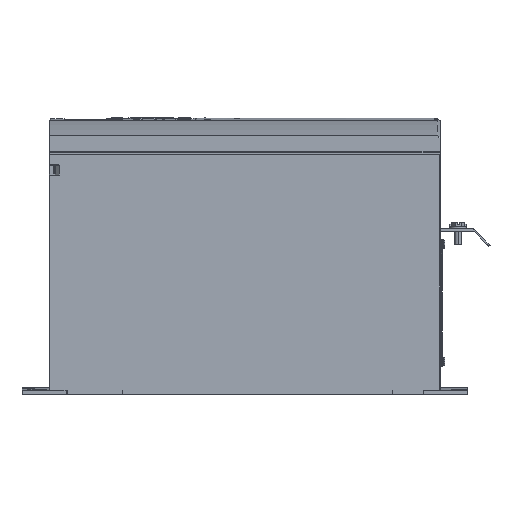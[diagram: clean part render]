
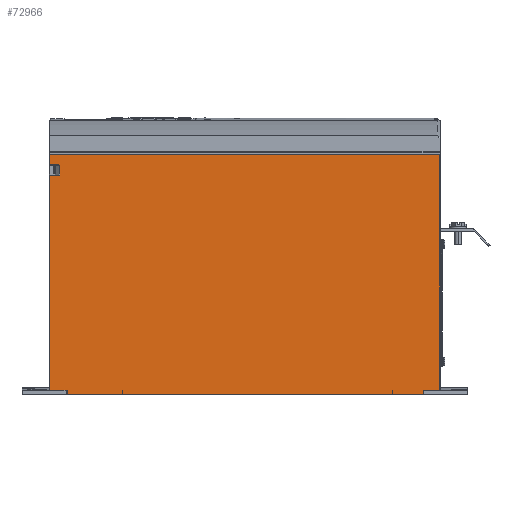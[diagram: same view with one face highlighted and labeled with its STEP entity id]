
A CAD part, left-side view. The second image highlights one B-rep face of the part: STEP entity #72966.
In plain terms, the highlighted planar face has unit normal (-1, 0, 0).
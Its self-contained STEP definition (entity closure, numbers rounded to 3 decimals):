
#6862=DIRECTION('',(0.,0.,-1.));
#6863=VECTOR('',#6862,8.5);
#6864=CARTESIAN_POINT('',(-82.5,165.896,204.95));
#6865=LINE('',#6864,#6863);
#6869=CARTESIAN_POINT('',(-82.5,165.896,204.95));
#6870=CARTESIAN_POINT('',(-82.5,165.896,204.967));
#6871=CARTESIAN_POINT('',(-82.5,165.899,205.001));
#6872=CARTESIAN_POINT('',(-82.5,165.91,205.054));
#6873=CARTESIAN_POINT('',(-82.5,165.932,205.11));
#6874=CARTESIAN_POINT('',(-82.5,165.966,205.169));
#6875=CARTESIAN_POINT('',(-82.5,166.013,205.228));
#6876=CARTESIAN_POINT('',(-82.5,166.074,205.284));
#6877=CARTESIAN_POINT('',(-82.5,166.151,205.337));
#6878=CARTESIAN_POINT('',(-82.5,166.244,205.383));
#6879=CARTESIAN_POINT('',(-82.5,166.352,205.42));
#6880=CARTESIAN_POINT('',(-82.5,166.474,205.444));
#6881=CARTESIAN_POINT('',(-82.5,166.559,205.45));
#6882=CARTESIAN_POINT('',(-82.5,166.604,205.45));
#6887=DIRECTION('',(0.,-1.,0.));
#6888=VECTOR('',#6887,8.146);
#6889=CARTESIAN_POINT('',(-82.5,174.75,205.45));
#6890=LINE('',#6889,#6888);
#6894=DIRECTION('',(0.,0.,1.));
#6895=VECTOR('',#6894,9.2);
#6896=CARTESIAN_POINT('',(-82.5,174.75,205.45));
#6897=LINE('',#6896,#6895);
#6901=DIRECTION('',(0.,1.,0.));
#6902=VECTOR('',#6901,349.25);
#6903=CARTESIAN_POINT('',(-82.5,-174.5,214.65));
#6904=LINE('',#6903,#6902);
#6908=DIRECTION('',(0.,0.,-1.));
#6909=VECTOR('',#6908,210.882);
#6910=CARTESIAN_POINT('',(-82.5,-174.5,214.65));
#6911=LINE('',#6910,#6909);
#6915=DIRECTION('',(0.,1.,0.));
#6916=VECTOR('',#6915,14.95);
#6917=CARTESIAN_POINT('',(-82.5,-174.5,3.768));
#6918=LINE('',#6917,#6916);
#6922=DIRECTION('',(0.,0.,1.));
#6923=VECTOR('',#6922,3.768);
#6924=CARTESIAN_POINT('',(-82.5,-132.589,0.));
#6925=LINE('',#6924,#6923);
#6929=DIRECTION('',(0.,1.,0.));
#6930=VECTOR('',#6929,0.5);
#6931=CARTESIAN_POINT('',(-82.5,-132.589,3.768));
#6932=LINE('',#6931,#6930);
#6936=DIRECTION('',(0.,0.,-1.));
#6937=VECTOR('',#6936,3.775);
#6938=CARTESIAN_POINT('',(-82.5,-132.089,3.768));
#6939=LINE('',#6938,#6937);
#6943=DIRECTION('',(0.,1.,0.));
#6944=VECTOR('',#6943,241.178);
#6945=CARTESIAN_POINT('',(-82.5,-132.089,-0.007));
#6946=LINE('',#6945,#6944);
#6950=DIRECTION('',(0.,0.,1.));
#6951=VECTOR('',#6950,3.775);
#6952=CARTESIAN_POINT('',(-82.5,109.089,-0.007));
#6953=LINE('',#6952,#6951);
#6957=DIRECTION('',(0.,1.,0.));
#6958=VECTOR('',#6957,0.5);
#6959=CARTESIAN_POINT('',(-82.5,109.089,3.768));
#6960=LINE('',#6959,#6958);
#6964=DIRECTION('',(0.,0.,1.));
#6965=VECTOR('',#6964,3.768);
#6966=CARTESIAN_POINT('',(-82.5,109.589,0.));
#6967=LINE('',#6966,#6965);
#6971=DIRECTION('',(0.,1.,0.));
#6972=VECTOR('',#6971,15.594);
#6973=CARTESIAN_POINT('',(-82.5,159.156,3.768));
#6974=LINE('',#6973,#6972);
#6978=DIRECTION('',(0.,0.,1.));
#6979=VECTOR('',#6978,192.182);
#6980=CARTESIAN_POINT('',(-82.5,174.75,3.768));
#6981=LINE('',#6980,#6979);
#6985=DIRECTION('',(0.,1.,0.));
#6986=VECTOR('',#6985,8.146);
#6987=CARTESIAN_POINT('',(-82.5,166.604,195.95));
#6988=LINE('',#6987,#6986);
#6992=CARTESIAN_POINT('',(-82.5,166.604,195.95));
#6993=CARTESIAN_POINT('',(-82.5,166.559,195.95));
#6994=CARTESIAN_POINT('',(-82.5,166.474,195.956));
#6995=CARTESIAN_POINT('',(-82.5,166.353,195.98));
#6996=CARTESIAN_POINT('',(-82.5,166.244,196.017));
#6997=CARTESIAN_POINT('',(-82.5,166.152,196.063));
#6998=CARTESIAN_POINT('',(-82.5,166.074,196.116));
#6999=CARTESIAN_POINT('',(-82.5,166.013,196.172));
#7000=CARTESIAN_POINT('',(-82.5,165.966,196.231));
#7001=CARTESIAN_POINT('',(-82.5,165.932,196.29));
#7002=CARTESIAN_POINT('',(-82.5,165.911,196.346));
#7003=CARTESIAN_POINT('',(-82.5,165.899,196.398));
#7004=CARTESIAN_POINT('',(-82.5,165.896,196.433));
#7005=CARTESIAN_POINT('',(-82.5,165.896,196.45));
#34938=CARTESIAN_POINT('',(-82.5,-174.5,3.768));
#34964=CARTESIAN_POINT('',(-82.5,174.75,3.768));
#35204=DIRECTION('',(0.,-1.,0.));
#35205=VECTOR('',#35204,49.567);
#35206=CARTESIAN_POINT('',(-82.5,159.156,0.));
#35207=LINE('',#35206,#35205);
#35232=DIRECTION('',(0.,0.,1.));
#35233=VECTOR('',#35232,3.768);
#35234=CARTESIAN_POINT('',(-82.5,159.156,0.));
#35235=LINE('',#35234,#35233);
#35309=DIRECTION('',(0.,-1.,0.));
#35310=VECTOR('',#35309,26.961);
#35311=CARTESIAN_POINT('',(-82.5,-132.589,0.));
#35312=LINE('',#35311,#35310);
#35352=DIRECTION('',(0.,0.,1.));
#35353=VECTOR('',#35352,3.768);
#35354=CARTESIAN_POINT('',(-82.5,-159.55,0.));
#35355=LINE('',#35354,#35353);
#63065=CARTESIAN_POINT('',(-82.5,-132.089,-0.007));
#63066=CARTESIAN_POINT('',(-82.5,109.089,-0.007));
#63067=VERTEX_POINT('',#63065);
#63068=VERTEX_POINT('',#63066);
#63074=CARTESIAN_POINT('',(-82.5,109.089,3.768));
#63076=VERTEX_POINT('',#63074);
#63078=CARTESIAN_POINT('',(-82.5,-132.089,3.768));
#63080=VERTEX_POINT('',#63078);
#63087=CARTESIAN_POINT('',(-82.5,-132.589,0.));
#63088=VERTEX_POINT('',#63087);
#63089=CARTESIAN_POINT('',(-82.5,-159.55,0.));
#63090=VERTEX_POINT('',#63089);
#63113=CARTESIAN_POINT('',(-82.5,-132.589,3.768));
#63114=VERTEX_POINT('',#63113);
#63115=CARTESIAN_POINT('',(-82.5,-159.55,3.768));
#63117=VERTEX_POINT('',#63115);
#63162=VERTEX_POINT('',#34938);
#63169=CARTESIAN_POINT('',(-82.5,109.589,0.));
#63170=VERTEX_POINT('',#63169);
#63171=CARTESIAN_POINT('',(-82.5,159.156,0.));
#63172=VERTEX_POINT('',#63171);
#63195=CARTESIAN_POINT('',(-82.5,109.589,3.768));
#63196=VERTEX_POINT('',#63195);
#63197=CARTESIAN_POINT('',(-82.5,159.156,3.768));
#63199=VERTEX_POINT('',#63197);
#63645=CARTESIAN_POINT('',(-82.5,-174.5,214.65));
#63647=VERTEX_POINT('',#63645);
#64436=CARTESIAN_POINT('',(-82.5,174.75,214.65));
#64438=VERTEX_POINT('',#64436);
#64440=VERTEX_POINT('',#34964);
#64493=CARTESIAN_POINT('',(-82.5,165.896,
204.95));
#64494=CARTESIAN_POINT('',(-82.5,165.896,
196.45));
#64495=VERTEX_POINT('',#64493);
#64496=VERTEX_POINT('',#64494);
#65426=CARTESIAN_POINT('',(-82.5,174.75,195.95));
#65427=VERTEX_POINT('',#65426);
#65428=CARTESIAN_POINT('',(-82.5,166.604,195.95));
#65429=VERTEX_POINT('',#65428);
#65446=CARTESIAN_POINT('',(-82.5,174.75,205.45));
#65447=CARTESIAN_POINT('',(-82.5,166.604,205.45));
#65448=VERTEX_POINT('',#65446);
#65449=VERTEX_POINT('',#65447);
#72915=CARTESIAN_POINT('',(-82.5,-175.,3.768));
#72916=DIRECTION('',(-1.,0.,0.));
#72917=DIRECTION('',(0.,0.,1.));
#72918=AXIS2_PLACEMENT_3D('',#72915,#72916,#72917);
#72919=PLANE('',#72918);
#72921=ORIENTED_EDGE('',*,*,#72920,.F.);
#72923=ORIENTED_EDGE('',*,*,#72922,.T.);
#72925=ORIENTED_EDGE('',*,*,#72924,.F.);
#72927=ORIENTED_EDGE('',*,*,#72926,.T.);
#72929=ORIENTED_EDGE('',*,*,#72928,.F.);
#72931=ORIENTED_EDGE('',*,*,#72930,.T.);
#72933=ORIENTED_EDGE('',*,*,#72932,.T.);
#72935=ORIENTED_EDGE('',*,*,#72934,.F.);
#72937=ORIENTED_EDGE('',*,*,#72936,.F.);
#72939=ORIENTED_EDGE('',*,*,#72938,.T.);
#72941=ORIENTED_EDGE('',*,*,#72940,.T.);
#72943=ORIENTED_EDGE('',*,*,#72942,.T.);
#72945=ORIENTED_EDGE('',*,*,#72944,.T.);
#72947=ORIENTED_EDGE('',*,*,#72946,.T.);
#72949=ORIENTED_EDGE('',*,*,#72948,.T.);
#72951=ORIENTED_EDGE('',*,*,#72950,.F.);
#72953=ORIENTED_EDGE('',*,*,#72952,.F.);
#72955=ORIENTED_EDGE('',*,*,#72954,.T.);
#72957=ORIENTED_EDGE('',*,*,#72956,.T.);
#72959=ORIENTED_EDGE('',*,*,#72958,.T.);
#72961=ORIENTED_EDGE('',*,*,#72960,.F.);
#72963=ORIENTED_EDGE('',*,*,#72962,.T.);
#72964=EDGE_LOOP('',(#72921,#72923,#72925,#72927,#72929,#72931,#72933,#72935,
#72937,#72939,#72941,#72943,#72945,#72947,#72949,#72951,#72953,#72955,#72957,
#72959,#72961,#72963));
#72965=FACE_OUTER_BOUND('',#72964,.F.);
#72966=ADVANCED_FACE('',(#72965),#72919,.T.);
#6883=B_SPLINE_CURVE_WITH_KNOTS('',3,(#6869,#6870,#6871,#6872,#6873,#6874,#6875,
#6876,#6877,#6878,#6879,#6880,#6881,#6882),.UNSPECIFIED.,.F.,.F.,(4,1,1,1,1,1,1,
1,1,1,1,4),(0.,0.091,0.182,0.273,
0.364,0.455,0.545,0.636,
0.727,0.818,0.909,1.),.UNSPECIFIED.);
#7006=B_SPLINE_CURVE_WITH_KNOTS('',3,(#6992,#6993,#6994,#6995,#6996,#6997,#6998,
#6999,#7000,#7001,#7002,#7003,#7004,#7005),.UNSPECIFIED.,.F.,.F.,(4,1,1,1,1,1,1,
1,1,1,1,4),(0.,0.091,0.182,0.273,
0.364,0.455,0.545,0.636,
0.727,0.818,0.909,1.),.UNSPECIFIED.);
#72920=EDGE_CURVE('',#64495,#64496,#6865,.T.);
#72922=EDGE_CURVE('',#64495,#65449,#6883,.T.);
#72924=EDGE_CURVE('',#65448,#65449,#6890,.T.);
#72926=EDGE_CURVE('',#65448,#64438,#6897,.T.);
#72928=EDGE_CURVE('',#63647,#64438,#6904,.T.);
#72930=EDGE_CURVE('',#63647,#63162,#6911,.T.);
#72932=EDGE_CURVE('',#63162,#63117,#6918,.T.);
#72934=EDGE_CURVE('',#63090,#63117,#35355,.T.);
#72936=EDGE_CURVE('',#63088,#63090,#35312,.T.);
#72938=EDGE_CURVE('',#63088,#63114,#6925,.T.);
#72940=EDGE_CURVE('',#63114,#63080,#6932,.T.);
#72942=EDGE_CURVE('',#63080,#63067,#6939,.T.);
#72944=EDGE_CURVE('',#63067,#63068,#6946,.T.);
#72946=EDGE_CURVE('',#63068,#63076,#6953,.T.);
#72948=EDGE_CURVE('',#63076,#63196,#6960,.T.);
#72950=EDGE_CURVE('',#63170,#63196,#6967,.T.);
#72952=EDGE_CURVE('',#63172,#63170,#35207,.T.);
#72954=EDGE_CURVE('',#63172,#63199,#35235,.T.);
#72956=EDGE_CURVE('',#63199,#64440,#6974,.T.);
#72958=EDGE_CURVE('',#64440,#65427,#6981,.T.);
#72960=EDGE_CURVE('',#65429,#65427,#6988,.T.);
#72962=EDGE_CURVE('',#65429,#64496,#7006,.T.);
